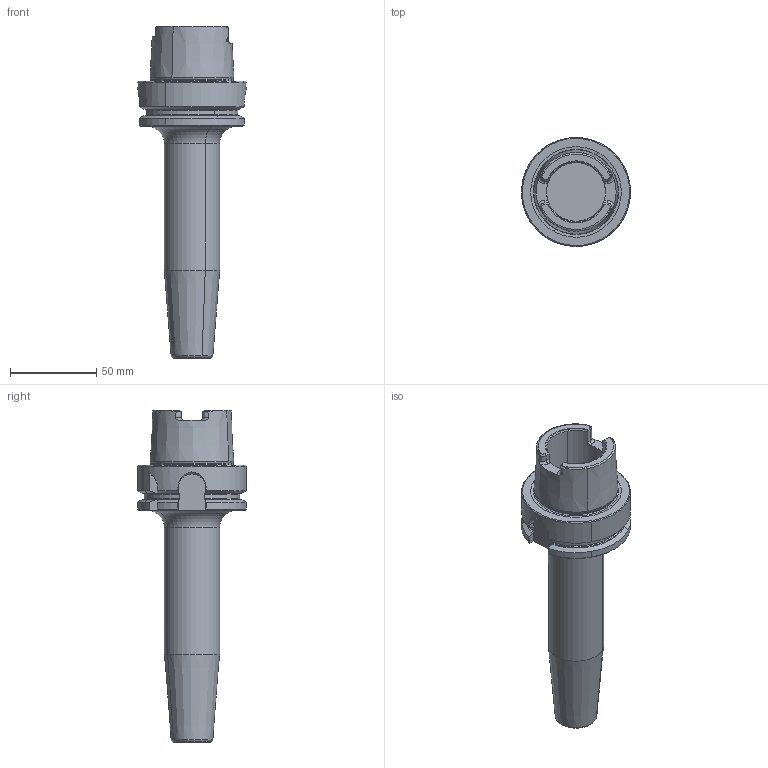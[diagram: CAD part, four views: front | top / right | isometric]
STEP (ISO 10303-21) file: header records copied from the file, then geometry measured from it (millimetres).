
FILE_DESCRIPTION(('CATIA V5 STEP','CAx-IF Rec.Pracs.--- Model Styling and Organization---1.2---2011-12-15'),'2;1');
FILE_NAME('\\nas01\drv1\utils\eitdev\rte\eit\transmagicconvert\db\out\4504020 L.stp','2014-03-30T08:15:35+00:00',('none'),('none'),'CATIA Version 5 Release 21 SP 5 (IN-10)','CATIA V5 STEP AP214','none');
FILE_SCHEMA(('AUTOMOTIVE_DESIGN { 1 0 10303 214 1 1 1 1 }'));
Length unit declared in the file: millimetre
Products named in the file (1): 60795877_0 Holder-Tool HSK A 63 SRKIN 10X160
Bounding box: 63 x 63 x 192 mm (x, y, z)
Volume: 191371.9 mm3; surface area: 33018.6 mm2
Topology: 1 solids, 1 shells, 142 faces, 365 edges, 228 vertices
Faces by surface type: plane 45, cone 37, cylinder 32, torus 28
Entity records: 4387 total; most frequent: CARTESIAN_POINT 1343, ORIENTED_EDGE 730, DIRECTION 448, EDGE_CURVE 365, AXIS2_PLACEMENT_3D 238, VERTEX_POINT 228, CIRCLE 153, EDGE_LOOP 145
